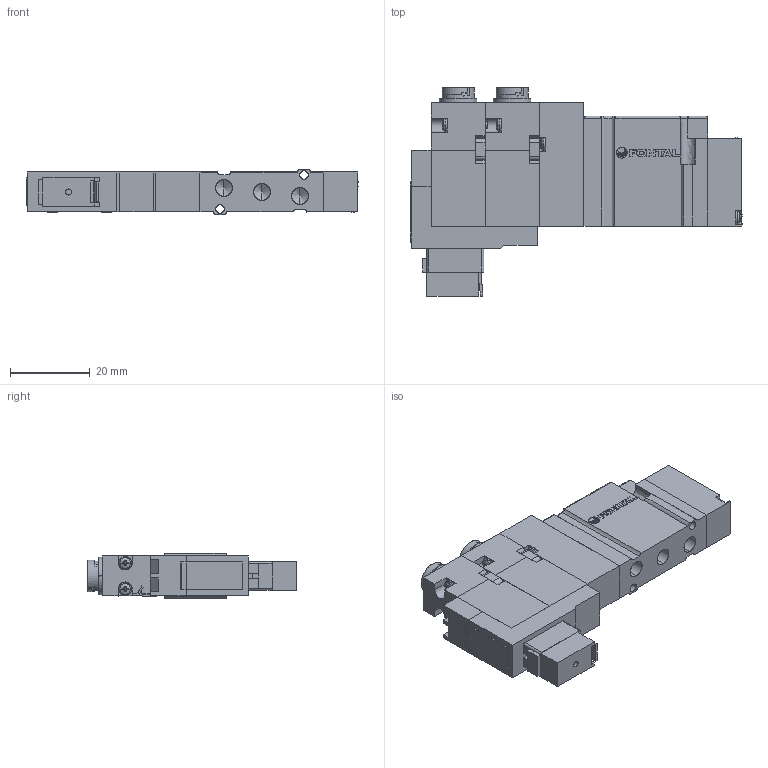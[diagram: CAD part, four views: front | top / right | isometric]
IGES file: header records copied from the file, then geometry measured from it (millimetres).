
Start section: SolidWorks IGES file using analytic representation for surfaces
Global section: file name: D:\Custom\3D繪製\ADEX\A05F\A05FD25#-#Q-#-E.IGS,1; native system: 5HSolidWorks 2014; preprocessor: SolidWorks 2014; author: Chieh_Lu; date: 150809.153918; units: millimetre
Bounding box: 83 x 52.1 x 11.4 mm (x, y, z)
Surface area: 15524.3 mm2 (no closed solid volume)
Topology: 0 solids, 0 shells, 908 faces, 7446 edges, 7412 vertices
Faces by surface type: bspline 620, revolution 288
